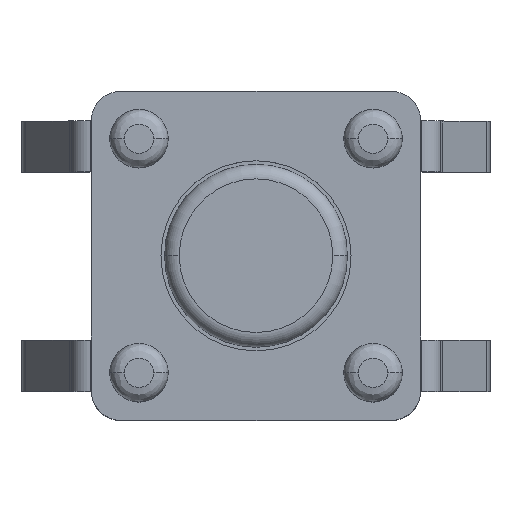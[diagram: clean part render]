
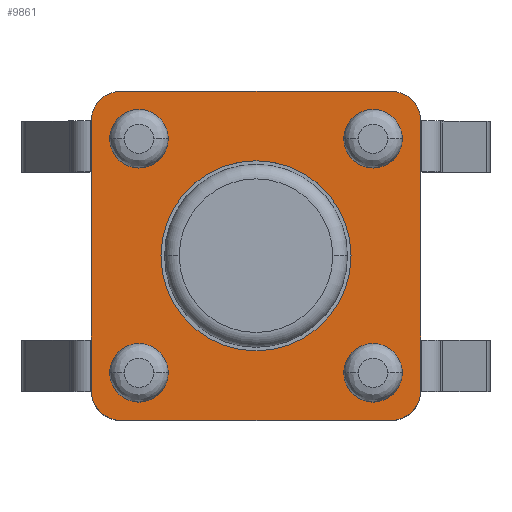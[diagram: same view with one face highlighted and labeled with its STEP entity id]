
A CAD part, top view. The second image highlights one B-rep face of the part: STEP entity #9861.
In plain terms, the highlighted planar face has unit normal (0, 0, 1).
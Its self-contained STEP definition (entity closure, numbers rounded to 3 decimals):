
#9223=CARTESIAN_POINT('',(0.,0.,2.6));
#9224=DIRECTION('',(0.,0.,-1.));
#9225=DIRECTION('',(1.,0.,0.));
#9226=AXIS2_PLACEMENT_3D('',#9223,#9224,#9225);
#9228=CARTESIAN_POINT('',(0.,0.,2.6));
#9229=DIRECTION('',(0.,0.,-1.));
#9230=DIRECTION('',(-1.,0.,0.));
#9231=AXIS2_PLACEMENT_3D('',#9228,#9229,#9230);
#9233=CARTESIAN_POINT('',(-1.85,-1.85,2.6));
#9234=DIRECTION('',(0.,0.,1.));
#9235=DIRECTION('',(-1.,0.,0.));
#9236=AXIS2_PLACEMENT_3D('',#9233,#9234,#9235);
#9238=DIRECTION('',(0.,-1.,0.));
#9239=VECTOR('',#9238,3.7);
#9240=CARTESIAN_POINT('',(-2.25,1.85,2.6));
#9241=LINE('',#9240,#9239);
#9242=CARTESIAN_POINT('',(-1.85,1.85,2.6));
#9243=DIRECTION('',(0.,0.,1.));
#9244=DIRECTION('',(0.,1.,0.));
#9245=AXIS2_PLACEMENT_3D('',#9242,#9243,#9244);
#9247=DIRECTION('',(-1.,0.,0.));
#9248=VECTOR('',#9247,3.7);
#9249=CARTESIAN_POINT('',(1.85,2.25,2.6));
#9250=LINE('',#9249,#9248);
#9251=CARTESIAN_POINT('',(1.85,1.85,2.6));
#9252=DIRECTION('',(0.,0.,1.));
#9253=DIRECTION('',(1.,0.,0.));
#9254=AXIS2_PLACEMENT_3D('',#9251,#9252,#9253);
#9256=DIRECTION('',(0.,1.,0.));
#9257=VECTOR('',#9256,3.7);
#9258=CARTESIAN_POINT('',(2.25,-1.85,2.6));
#9259=LINE('',#9258,#9257);
#9260=CARTESIAN_POINT('',(1.85,-1.85,2.6));
#9261=DIRECTION('',(0.,0.,1.));
#9262=DIRECTION('',(0.,-1.,0.));
#9263=AXIS2_PLACEMENT_3D('',#9260,#9261,#9262);
#9265=DIRECTION('',(1.,0.,0.));
#9266=VECTOR('',#9265,3.7);
#9267=CARTESIAN_POINT('',(-1.85,-2.25,2.6));
#9268=LINE('',#9267,#9266);
#9269=CARTESIAN_POINT('',(-1.6,1.6,2.6));
#9270=DIRECTION('',(0.,0.,1.));
#9271=DIRECTION('',(1.,0.,0.));
#9272=AXIS2_PLACEMENT_3D('',#9269,#9270,#9271);
#9274=CARTESIAN_POINT('',(-1.6,1.6,2.6));
#9275=DIRECTION('',(0.,0.,1.));
#9276=DIRECTION('',(-1.,0.,0.));
#9277=AXIS2_PLACEMENT_3D('',#9274,#9275,#9276);
#9279=CARTESIAN_POINT('',(-1.6,-1.6,2.6));
#9280=DIRECTION('',(0.,0.,1.));
#9281=DIRECTION('',(1.,0.,0.));
#9282=AXIS2_PLACEMENT_3D('',#9279,#9280,#9281);
#9284=CARTESIAN_POINT('',(-1.6,-1.6,2.6));
#9285=DIRECTION('',(0.,0.,1.));
#9286=DIRECTION('',(-1.,0.,0.));
#9287=AXIS2_PLACEMENT_3D('',#9284,#9285,#9286);
#9289=CARTESIAN_POINT('',(1.6,1.6,2.6));
#9290=DIRECTION('',(0.,0.,-1.));
#9291=DIRECTION('',(-1.,0.,0.));
#9292=AXIS2_PLACEMENT_3D('',#9289,#9290,#9291);
#9294=CARTESIAN_POINT('',(1.6,1.6,2.6));
#9295=DIRECTION('',(0.,0.,-1.));
#9296=DIRECTION('',(1.,0.,0.));
#9297=AXIS2_PLACEMENT_3D('',#9294,#9295,#9296);
#9299=CARTESIAN_POINT('',(1.6,-1.6,2.6));
#9300=DIRECTION('',(0.,0.,-1.));
#9301=DIRECTION('',(-1.,0.,0.));
#9302=AXIS2_PLACEMENT_3D('',#9299,#9300,#9301);
#9304=CARTESIAN_POINT('',(1.6,-1.6,2.6));
#9305=DIRECTION('',(0.,0.,-1.));
#9306=DIRECTION('',(1.,0.,0.));
#9307=AXIS2_PLACEMENT_3D('',#9304,#9305,#9306);
#9505=CARTESIAN_POINT('',(1.3,0.,2.6));
#9506=CARTESIAN_POINT('',(-1.3,0.,2.6));
#9507=VERTEX_POINT('',#9505);
#9508=VERTEX_POINT('',#9506);
#9509=CARTESIAN_POINT('',(-2.25,-1.85,2.6));
#9510=CARTESIAN_POINT('',(-1.85,-2.25,2.6));
#9511=VERTEX_POINT('',#9509);
#9512=VERTEX_POINT('',#9510);
#9513=CARTESIAN_POINT('',(1.85,-2.25,2.6));
#9514=VERTEX_POINT('',#9513);
#9515=CARTESIAN_POINT('',(2.25,-1.85,2.6));
#9516=VERTEX_POINT('',#9515);
#9517=CARTESIAN_POINT('',(2.25,1.85,2.6));
#9518=VERTEX_POINT('',#9517);
#9519=CARTESIAN_POINT('',(1.85,2.25,2.6));
#9520=VERTEX_POINT('',#9519);
#9521=CARTESIAN_POINT('',(-1.85,2.25,2.6));
#9522=VERTEX_POINT('',#9521);
#9523=CARTESIAN_POINT('',(-2.25,1.85,2.6));
#9524=VERTEX_POINT('',#9523);
#9525=CARTESIAN_POINT('',(-1.2,1.6,2.6));
#9526=CARTESIAN_POINT('',(-2.,1.6,2.6));
#9527=VERTEX_POINT('',#9525);
#9528=VERTEX_POINT('',#9526);
#9529=CARTESIAN_POINT('',(-1.2,-1.6,2.6));
#9530=CARTESIAN_POINT('',(-2.,-1.6,2.6));
#9531=VERTEX_POINT('',#9529);
#9532=VERTEX_POINT('',#9530);
#9549=CARTESIAN_POINT('',(1.2,1.6,2.6));
#9550=CARTESIAN_POINT('',(2.,1.6,2.6));
#9551=VERTEX_POINT('',#9549);
#9552=VERTEX_POINT('',#9550);
#9553=CARTESIAN_POINT('',(1.2,-1.6,2.6));
#9554=CARTESIAN_POINT('',(2.,-1.6,2.6));
#9555=VERTEX_POINT('',#9553);
#9556=VERTEX_POINT('',#9554);
#9811=CARTESIAN_POINT('',(0.,0.,2.6));
#9812=DIRECTION('',(0.,0.,1.));
#9813=DIRECTION('',(1.,0.,0.));
#9814=AXIS2_PLACEMENT_3D('',#9811,#9812,#9813);
#9815=PLANE('',#9814);
#9817=ORIENTED_EDGE('',*,*,#9816,.F.);
#9819=ORIENTED_EDGE('',*,*,#9818,.F.);
#9821=ORIENTED_EDGE('',*,*,#9820,.F.);
#9823=ORIENTED_EDGE('',*,*,#9822,.F.);
#9825=ORIENTED_EDGE('',*,*,#9824,.F.);
#9827=ORIENTED_EDGE('',*,*,#9826,.F.);
#9829=ORIENTED_EDGE('',*,*,#9828,.F.);
#9831=ORIENTED_EDGE('',*,*,#9830,.F.);
#9832=EDGE_LOOP('',(#9817,#9819,#9821,#9823,#9825,#9827,#9829,#9831));
#9833=FACE_OUTER_BOUND('',#9832,.F.);
#9835=ORIENTED_EDGE('',*,*,#9834,.F.);
#9837=ORIENTED_EDGE('',*,*,#9836,.F.);
#9838=EDGE_LOOP('',(#9835,#9837));
#9839=FACE_BOUND('',#9838,.F.);
#9840=ORIENTED_EDGE('',*,*,#9798,.T.);
#9841=ORIENTED_EDGE('',*,*,#9777,.T.);
#9842=EDGE_LOOP('',(#9840,#9841));
#9843=FACE_BOUND('',#9842,.F.);
#9844=ORIENTED_EDGE('',*,*,#9582,.T.);
#9846=ORIENTED_EDGE('',*,*,#9845,.T.);
#9847=EDGE_LOOP('',(#9844,#9846));
#9848=FACE_BOUND('',#9847,.F.);
#9850=ORIENTED_EDGE('',*,*,#9849,.F.);
#9852=ORIENTED_EDGE('',*,*,#9851,.F.);
#9853=EDGE_LOOP('',(#9850,#9852));
#9854=FACE_BOUND('',#9853,.F.);
#9856=ORIENTED_EDGE('',*,*,#9855,.F.);
#9858=ORIENTED_EDGE('',*,*,#9857,.F.);
#9859=EDGE_LOOP('',(#9856,#9858));
#9860=FACE_BOUND('',#9859,.F.);
#9861=ADVANCED_FACE('',(#9833,#9839,#9843,#9848,#9854,#9860),#9815,.T.);
#9227=CIRCLE('',#9226,1.3);
#9232=CIRCLE('',#9231,1.3);
#9237=CIRCLE('',#9236,0.4);
#9246=CIRCLE('',#9245,0.4);
#9255=CIRCLE('',#9254,0.4);
#9264=CIRCLE('',#9263,0.4);
#9273=CIRCLE('',#9272,0.4);
#9278=CIRCLE('',#9277,0.4);
#9283=CIRCLE('',#9282,0.4);
#9288=CIRCLE('',#9287,0.4);
#9293=CIRCLE('',#9292,0.4);
#9298=CIRCLE('',#9297,0.4);
#9303=CIRCLE('',#9302,0.4);
#9308=CIRCLE('',#9307,0.4);
#9582=EDGE_CURVE('',#9531,#9532,#9283,.T.);
#9777=EDGE_CURVE('',#9528,#9527,#9278,.T.);
#9798=EDGE_CURVE('',#9527,#9528,#9273,.T.);
#9816=EDGE_CURVE('',#9511,#9512,#9237,.T.);
#9818=EDGE_CURVE('',#9524,#9511,#9241,.T.);
#9820=EDGE_CURVE('',#9522,#9524,#9246,.T.);
#9822=EDGE_CURVE('',#9520,#9522,#9250,.T.);
#9824=EDGE_CURVE('',#9518,#9520,#9255,.T.);
#9826=EDGE_CURVE('',#9516,#9518,#9259,.T.);
#9828=EDGE_CURVE('',#9514,#9516,#9264,.T.);
#9830=EDGE_CURVE('',#9512,#9514,#9268,.T.);
#9834=EDGE_CURVE('',#9507,#9508,#9227,.T.);
#9836=EDGE_CURVE('',#9508,#9507,#9232,.T.);
#9845=EDGE_CURVE('',#9532,#9531,#9288,.T.);
#9849=EDGE_CURVE('',#9551,#9552,#9293,.T.);
#9851=EDGE_CURVE('',#9552,#9551,#9298,.T.);
#9855=EDGE_CURVE('',#9555,#9556,#9303,.T.);
#9857=EDGE_CURVE('',#9556,#9555,#9308,.T.);
